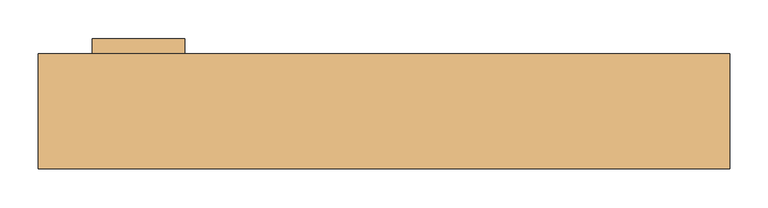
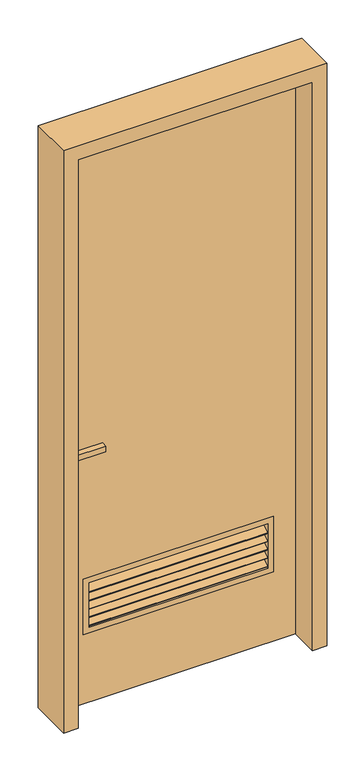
"""IFC4 building model written with IfcOpenShell, lengths in millimetres: door geometry, ARQ-PU-INT-90x210-Mad-C3 : ARQ-PU-INT-90x210-Mad."""

from ifc_helpers import new_model, si_unit, frame, origin, place, context, project, spatial, polyline, outline, extrude, source, transform, mapped, element, save


def door_e3acdb04(model_context):
    return source(origin(), model_context, "Body", "SweptSolid", [
        extrude(outline(polyline([(2100.0, -450.0), (0.0, -450.0), (0.0, -400.0), (2050.0, -400.0), (2050.0, 400.0), (0.0, 400.0), (0.0, 450.0), (2100.0, 450.0), (2100.0, -450.0)])), frame((0.0, -75.0, 0.0), z_axis=(0.0, 1.0, 0.0), x_axis=(0.0, 0.0, 1.0)), (0.0, 0.0, 1.0), 150.0),
        extrude(outline(polyline([(0.0, 55.4154803), (610.0200372, 55.4154803), (610.0200372, 0.0), (0.0, 0.0), (0.0, 55.4154803)])), frame((305.0100186, 75.1127884, 421.6870193), z_axis=(0.0, -0.514495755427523, 0.8574929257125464), x_axis=(-1.0, 0.0, 0.0)), (0.0, 0.0, 1.0), 5.042619),
        extrude(outline(polyline([(0.0, 55.4154803), (610.0200372, 55.4154803), (610.0200372, 0.0), (0.0, 0.0), (0.0, 55.4154803)])), frame((305.0100186, 75.1127884, 391.6870193), z_axis=(0.0, -0.5144957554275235, 0.8574929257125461), x_axis=(-1.0, 0.0, 0.0)), (0.0, 0.0, 1.0), 5.042619),
        extrude(outline(polyline([(0.0, 55.4154803), (610.0200372, 55.4154803), (610.0200372, 0.0), (0.0, 0.0), (0.0, 55.4154803)])), frame((305.0100186, 75.1127884, 361.6870193), z_axis=(0.0, -0.5144957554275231, 0.8574929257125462), x_axis=(-1.0, 0.0, 0.0)), (0.0, 0.0, 1.0), 5.042619),
        extrude(outline(polyline([(0.0, 55.4154803), (610.0200372, 55.4154803), (610.0200372, 0.0), (0.0, 0.0), (0.0, 55.4154803)])), frame((305.0100186, 75.1127884, 331.6870193), z_axis=(0.0, -0.5144957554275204, 0.8574929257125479), x_axis=(-1.0, 0.0, 0.0)), (0.0, 0.0, 1.0), 5.042619),
        extrude(outline(polyline([(0.0, 55.4154803), (610.0200372, 55.4154803), (610.0200372, 0.0), (0.0, 0.0), (0.0, 55.4154803)])), frame((305.0100186, 75.1127884, 301.6870193), z_axis=(0.0, -0.5144957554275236, 0.857492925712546), x_axis=(-1.0, 0.0, 0.0)), (0.0, 0.0, 1.0), 5.042619),
        extrude(outline(polyline([(450.0, 325.0100186), (450.0, -325.0100186), (250.0, -325.0100186), (250.0, 325.0100186), (450.0, 325.0100186)]), holes=[polyline([(430.0, 305.0100186), (270.0, 305.0100186), (270.0, -305.0100186), (430.0, -305.0100186), (430.0, 305.0100186)])]), frame((0.0, 25.0, 0.0), z_axis=(0.0, 1.0, 0.0), x_axis=(0.0, 0.0, 1.0)), (0.0, 0.0, 1.0), 50.0),
        extrude(outline(polyline([(-259.6774814, 95.0), (-259.6774814, 75.0), (-379.6774814, 75.0), (-379.6774814, 95.0), (-259.6774814, 95.0)])), frame((0.0, 0.0, 900.0), z_axis=(0.0, 0.0, 1.0), x_axis=(1.0, 0.0, 0.0)), (0.0, 0.0, 1.0), 20.0),
        extrude(outline(polyline([(-379.6774814, 5.0), (-379.6774814, 25.0), (-259.6774814, 25.0), (-259.6774814, 5.0), (-379.6774814, 5.0)])), frame((0.0, 0.0, 900.0), z_axis=(0.0, 0.0, 1.0), x_axis=(1.0, 0.0, 0.0)), (0.0, 0.0, 1.0), 20.0),
        extrude(outline(polyline([(2050.0, 400.0), (2050.0, -400.0), (0.0, -400.0), (0.0, 400.0), (2050.0, 400.0)]), holes=[polyline([(450.0, 325.0100186), (250.0, 325.0100186), (250.0, -325.0100186), (450.0, -325.0100186), (450.0, 325.0100186)])]), frame((0.0, 25.0, 0.0), z_axis=(0.0, 1.0, 0.0), x_axis=(0.0, 0.0, 1.0)), (0.0, 0.0, 1.0), 50.0),
    ])


if __name__ == "__main__":
    model = new_model("IFC4")
    model_context = context("Model", 3, world=origin())
    ifc_project = project(units=[si_unit("LENGTHUNIT", "METRE", prefix="MILLI")], contexts=[model_context])
    site = spatial("IfcSite", under=ifc_project)
    building = spatial("IfcBuilding", under=site)
    placement = place(None, origin())
    door_shape = door_e3acdb04(model_context)
    element("IfcDoor", 1, ObjectType="ARQ-PU-INT-90x210-Mad-C3 : ARQ-PU-INT-90x210-Mad", at=placement, inside=building, context=model_context, shape_type="MappedRepresentation", body=[
        mapped(door_shape, transform((0.0, 0.0, 0.0), x_axis=(1.0, 0.0, 0.0), y_axis=(0.0, 1.0, 0.0), z_axis=(0.0, 0.0, 1.0))),
    ])
    save(model, "model.ifc")
